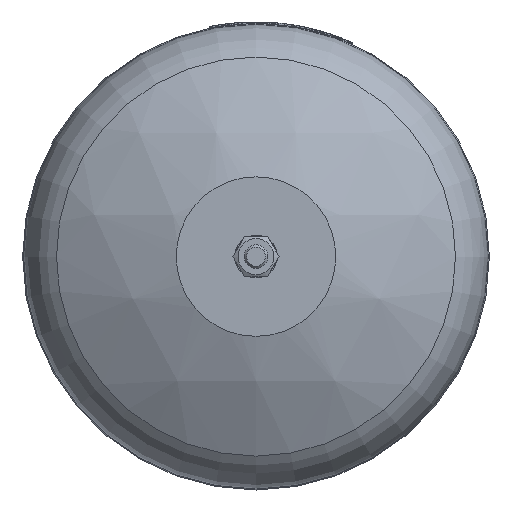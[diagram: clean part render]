
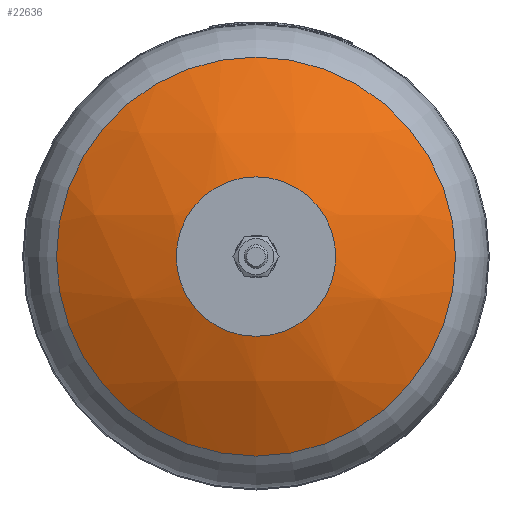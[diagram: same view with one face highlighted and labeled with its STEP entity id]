
A CAD part, front view. The second image highlights one B-rep face of the part: STEP entity #22636.
In plain terms, the highlighted spherical face has radius 159 mm.
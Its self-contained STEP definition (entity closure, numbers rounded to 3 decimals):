
#19=SPHERICAL_SURFACE('',#24300,159.);
#598=FACE_BOUND('',#4659,.T.);
#2049=CIRCLE('',#24299,85.047);
#2050=CIRCLE('',#24301,34.);
#3293=FACE_OUTER_BOUND('',#4658,.T.);
#4658=EDGE_LOOP('',(#20660));
#4659=EDGE_LOOP('',(#20661));
#10588=VERTEX_POINT('',#48286);
#10589=VERTEX_POINT('',#48289);
#13961=EDGE_CURVE('',#10588,#10588,#2049,.T.);
#13962=EDGE_CURVE('',#10589,#10589,#2050,.T.);
#20660=ORIENTED_EDGE('',*,*,#13961,.T.);
#20661=ORIENTED_EDGE('',*,*,#13962,.F.);
#22636=ADVANCED_FACE('',(#3293,#598),#19,.T.);
#24299=AXIS2_PLACEMENT_3D('',#48287,#29236,#29237);
#24300=AXIS2_PLACEMENT_3D('',#48288,#29238,#29239);
#24301=AXIS2_PLACEMENT_3D('',#48290,#29240,#29241);
#29236=DIRECTION('center_axis',(0.,-1.,0.));
#29237=DIRECTION('ref_axis',(1.,0.,0.));
#29238=DIRECTION('center_axis',(0.,0.,
1.));
#29239=DIRECTION('ref_axis',(-1.,0.,0.));
#29240=DIRECTION('center_axis',(0.,-1.,0.));
#29241=DIRECTION('ref_axis',(1.,0.,0.));
#48286=CARTESIAN_POINT('',(85.047,-143.021,0.));
#48287=CARTESIAN_POINT('Origin',(0.,-143.021,
0.));
#48288=CARTESIAN_POINT('Origin',(0.,-8.678,
0.));
#48289=CARTESIAN_POINT('',(34.,-164.,0.));
#48290=CARTESIAN_POINT('Origin',(0.,-164.,0.));
